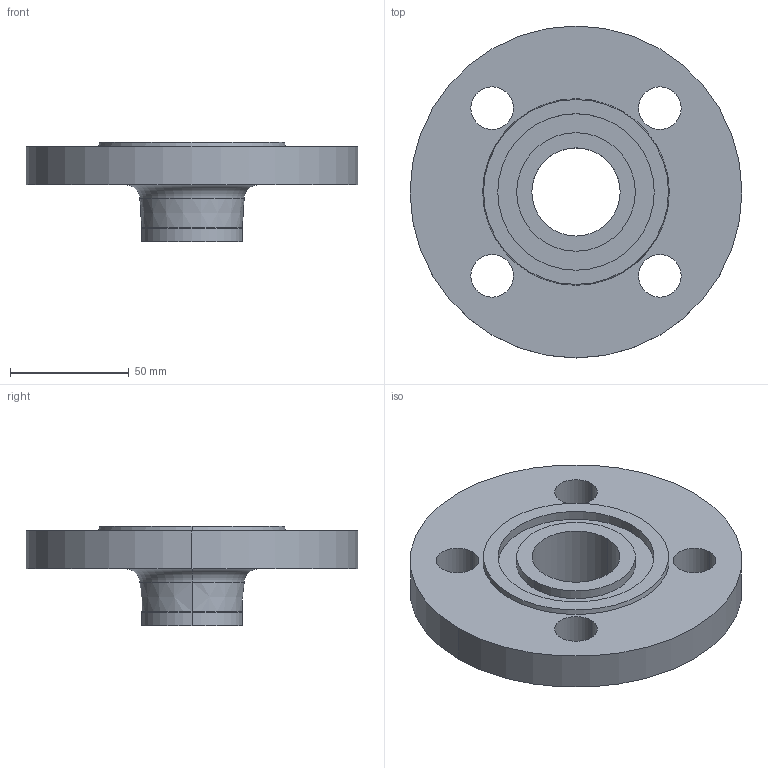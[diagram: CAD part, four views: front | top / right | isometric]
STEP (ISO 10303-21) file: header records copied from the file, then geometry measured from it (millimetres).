
FILE_DESCRIPTION (( 'STEP AP214' ), '1' );
FILE_NAME ('PN40 DN32 Type 11 - Type D Face.STEP', '2018-12-30T00:00:01', ( '' ), ( '' ), 'SwSTEP 2.0', 'SolidWorks 2019', '' );
FILE_SCHEMA (( 'AUTOMOTIVE_DESIGN' ));
Length unit declared in the file: millimetre
Products named in the file (1): PN40 DN32 Type 11 - Type D Face
Bounding box: 140 x 140 x 42 mm (x, y, z)
Volume: 224497.8 mm3; surface area: 46825.8 mm2
Topology: 1 solids, 1 shells, 32 faces, 72 edges, 46 vertices
Faces by surface type: cylinder 18, plane 6, torus 4, cone 4
Entity records: 972 total; most frequent: DIRECTION 188, CARTESIAN_POINT 151, ORIENTED_EDGE 144, AXIS2_PLACEMENT_3D 83, EDGE_CURVE 72, CIRCLE 50, EDGE_LOOP 46, VERTEX_POINT 46
